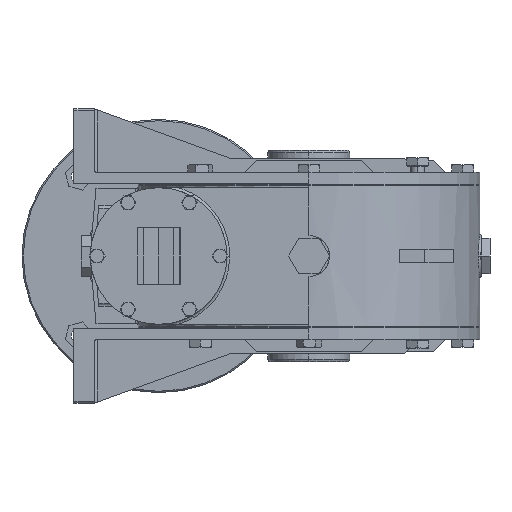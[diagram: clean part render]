
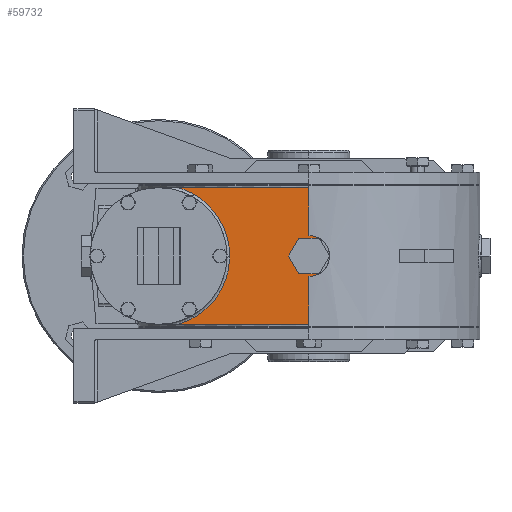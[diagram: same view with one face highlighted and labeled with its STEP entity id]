
A CAD part, left-side view. The second image highlights one B-rep face of the part: STEP entity #59732.
In plain terms, the highlighted planar face has unit normal (-1, 0, 0).
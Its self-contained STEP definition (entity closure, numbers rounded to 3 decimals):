
#699 = CARTESIAN_POINT ( 'NONE',  ( -125., 7.5, -12.99 ) ) ;
#700 = CARTESIAN_POINT ( 'NONE',  ( -125., 15., 0. ) ) ;
#904 = DIRECTION ( 'NONE',  ( 0., 0., -1. ) ) ;
#905 = VECTOR ( 'NONE', #904, 1000. ) ;
#906 = CARTESIAN_POINT ( 'NONE',  ( -125., 0., 0. ) ) ;
#907 = LINE ( 'NONE', #906, #905 ) ;
#1027 = DIRECTION ( 'NONE',  ( 0., -0.5, -0.866 ) ) ;
#1028 = VECTOR ( 'NONE', #1027, 1000. ) ;
#1029 = CARTESIAN_POINT ( 'NONE',  ( -125., 15., 0. ) ) ;
#1030 = LINE ( 'NONE', #1029, #1028 ) ;
#1315 = CARTESIAN_POINT ( 'NONE',  ( -125., -7.5, -12.99 ) ) ;
#1332 = DIRECTION ( 'NONE',  ( 0., 0., -1. ) ) ;
#1333 = DIRECTION ( 'NONE',  ( 1., 0., 0. ) ) ;
#1334 = CARTESIAN_POINT ( 'NONE',  ( -125., 0., 0. ) ) ;
#1335 = AXIS2_PLACEMENT_3D ( 'NONE', #1334, #1333, #1332 ) ;
#1340 = CIRCLE ( 'NONE', #1335, 15. ) ;
#1421 = DIRECTION ( 'NONE',  ( 0., -1., 0. ) ) ;
#1422 = VECTOR ( 'NONE', #1421, 1000. ) ;
#1423 = CARTESIAN_POINT ( 'NONE',  ( -125., 52.131, -12.99 ) ) ;
#1424 = LINE ( 'NONE', #1423, #1422 ) ;
#1466 = DIRECTION ( 'NONE',  ( 0., 0., -1. ) ) ;
#1467 = VECTOR ( 'NONE', #1466, 1000. ) ;
#1468 = CARTESIAN_POINT ( 'NONE',  ( -125., 0., 0. ) ) ;
#1469 = LINE ( 'NONE', #1468, #1467 ) ;
#1529 = CARTESIAN_POINT ( 'NONE',  ( -125., 0., 15. ) ) ;
#1535 = CARTESIAN_POINT ( 'NONE',  ( -125., -7.5, 12.99 ) ) ;
#1536 = DIRECTION ( 'NONE',  ( 0., 1., 0. ) ) ;
#1537 = VECTOR ( 'NONE', #1536, 1000. ) ;
#1538 = CARTESIAN_POINT ( 'NONE',  ( -125., 52.131, 12.99 ) ) ;
#1539 = LINE ( 'NONE', #1538, #1537 ) ;
#1544 = CARTESIAN_POINT ( 'NONE',  ( -125., 7.5, 12.99 ) ) ;
#1545 = DIRECTION ( 'NONE',  ( 0., 0.5, -0.866 ) ) ;
#1546 = VECTOR ( 'NONE', #1545, 1000. ) ;
#1547 = CARTESIAN_POINT ( 'NONE',  ( -125., 7.5, 12.99 ) ) ;
#1548 = LINE ( 'NONE', #1547, #1546 ) ;
#1560 = CARTESIAN_POINT ( 'NONE',  ( -125., 0., -15. ) ) ;
#1640 = PLANE ( 'NONE',  #1643 ) ;
#1642 = CARTESIAN_POINT ( 'NONE',  ( -125., 52.131, 0. ) ) ;
#1643 = AXIS2_PLACEMENT_3D ( 'NONE', #1642, #1652, #1651 ) ;
#1644 = FACE_OUTER_BOUND ( 'NONE', #59508, .T. ) ;
#1651 = DIRECTION ( 'NONE',  ( 0., 0., -1. ) ) ;
#1652 = DIRECTION ( 'NONE',  ( 1., 0., 0. ) ) ;
#1740 = CARTESIAN_POINT ( 'NONE',  ( -125., 95.717, -50. ) ) ;
#1746 = DIRECTION ( 'NONE',  ( 0., 1., 0. ) ) ;
#1747 = VECTOR ( 'NONE', #1746, 1000. ) ;
#1748 = CARTESIAN_POINT ( 'NONE',  ( -125., 52.131, -50. ) ) ;
#1749 = LINE ( 'NONE', #1748, #1747 ) ;
#1763 = CARTESIAN_POINT ( 'NONE',  ( -125., 95.717, 50. ) ) ;
#1765 = CARTESIAN_POINT ( 'NONE',  ( -125., 33.656, 32.272 ) ) ;
#1767 = CARTESIAN_POINT ( 'NONE',  ( -125., 33.656, -32.272 ) ) ;
#1768 = CARTESIAN_POINT ( 'NONE',  ( -125., 95.717, -50. ) ) ;
#1774 =( BOUNDED_CURVE ( )  B_SPLINE_CURVE ( 3, ( #1768, #1767, #1765, #1763 ),
 .UNSPECIFIED., .F., .T. ) 
 B_SPLINE_CURVE_WITH_KNOTS ( ( 4, 4 ),
 ( 0., 1. ),
 .UNSPECIFIED. ) 
 CURVE ( )  GEOMETRIC_REPRESENTATION_ITEM ( )  RATIONAL_B_SPLINE_CURVE ( ( 1., 0.516, 0.516, 1. ) ) 
 REPRESENTATION_ITEM ( '' )  );
#1845 = CARTESIAN_POINT ( 'NONE',  ( -125., 95.717, 50. ) ) ;
#1887 = DIRECTION ( 'NONE',  ( 0., 0., -1. ) ) ;
#1889 = DIRECTION ( 'NONE',  ( 1., 0., 0. ) ) ;
#1891 = CARTESIAN_POINT ( 'NONE',  ( -125., 0., 0. ) ) ;
#1893 = AXIS2_PLACEMENT_3D ( 'NONE', #1891, #1889, #1887 ) ;
#1894 = CIRCLE ( 'NONE', #1893, 15. ) ;
#2867 = DIRECTION ( 'NONE',  ( 0., -1., 0. ) ) ;
#2868 = VECTOR ( 'NONE', #2867, 1000. ) ;
#2869 = CARTESIAN_POINT ( 'NONE',  ( -125., 52.131, 50. ) ) ;
#2870 = LINE ( 'NONE', #2869, #2868 ) ;
#40747 = CARTESIAN_POINT ( 'NONE',  ( -125., 0., 50. ) ) ;
#41596 = CARTESIAN_POINT ( 'NONE',  ( -125., 0., -50. ) ) ;
#59412 = EDGE_CURVE ( 'NONE', #64751, #59661, #907, .T. ) ;
#59508 = EDGE_LOOP ( 'NONE', ( #59515, #59639, #59648, #59531, #60049, #60055, #60002, #59798, #59839, #60037, #59606 ) ) ;
#59515 = ORIENTED_EDGE ( 'NONE', *, *, #59517, .F. ) ;
#59517 = EDGE_CURVE ( 'NONE', #59521, #59522, #1030, .T. ) ;
#59521 = VERTEX_POINT ( 'NONE', #700 ) ;
#59522 = VERTEX_POINT ( 'NONE', #699 ) ;
#59531 = ORIENTED_EDGE ( 'NONE', *, *, #59836, .F. ) ;
#59598 = EDGE_CURVE ( 'NONE', #59603, #59634, #1340, .T. ) ;
#59603 = VERTEX_POINT ( 'NONE', #1315 ) ;
#59606 = ORIENTED_EDGE ( 'NONE', *, *, #59716, .F. ) ;
#59634 = VERTEX_POINT ( 'NONE', #1560 ) ;
#59639 = ORIENTED_EDGE ( 'NONE', *, *, #59641, .F. ) ;
#59641 = EDGE_CURVE ( 'NONE', #59642, #59521, #1548, .T. ) ;
#59642 = VERTEX_POINT ( 'NONE', #1544 ) ;
#59648 = ORIENTED_EDGE ( 'NONE', *, *, #59650, .F. ) ;
#59650 = EDGE_CURVE ( 'NONE', #59653, #59642, #1539, .T. ) ;
#59653 = VERTEX_POINT ( 'NONE', #1535 ) ;
#59661 = VERTEX_POINT ( 'NONE', #1529 ) ;
#59685 = EDGE_CURVE ( 'NONE', #59634, #64555, #1469, .T. ) ;
#59716 = EDGE_CURVE ( 'NONE', #59522, #59603, #1424, .T. ) ;
#59732 = ADVANCED_FACE ( 'NONE', ( #1644 ), #1640, .F. ) ;
#59775 = EDGE_CURVE ( 'NONE', #59794, #59785, #1774, .T. ) ;
#59785 = VERTEX_POINT ( 'NONE', #1845 ) ;
#59791 = EDGE_CURVE ( 'NONE', #64555, #59794, #1749, .T. ) ;
#59794 = VERTEX_POINT ( 'NONE', #1740 ) ;
#59798 = ORIENTED_EDGE ( 'NONE', *, *, #59791, .F. ) ;
#59836 = EDGE_CURVE ( 'NONE', #59661, #59653, #1894, .T. ) ;
#59839 = ORIENTED_EDGE ( 'NONE', *, *, #59685, .F. ) ;
#60002 = ORIENTED_EDGE ( 'NONE', *, *, #59775, .F. ) ;
#60005 = EDGE_CURVE ( 'NONE', #59785, #64751, #2870, .T. ) ;
#60037 = ORIENTED_EDGE ( 'NONE', *, *, #59598, .F. ) ;
#60049 = ORIENTED_EDGE ( 'NONE', *, *, #59412, .F. ) ;
#60055 = ORIENTED_EDGE ( 'NONE', *, *, #60005, .F. ) ;
#64555 = VERTEX_POINT ( 'NONE', #41596 ) ;
#64751 = VERTEX_POINT ( 'NONE', #40747 ) ;
